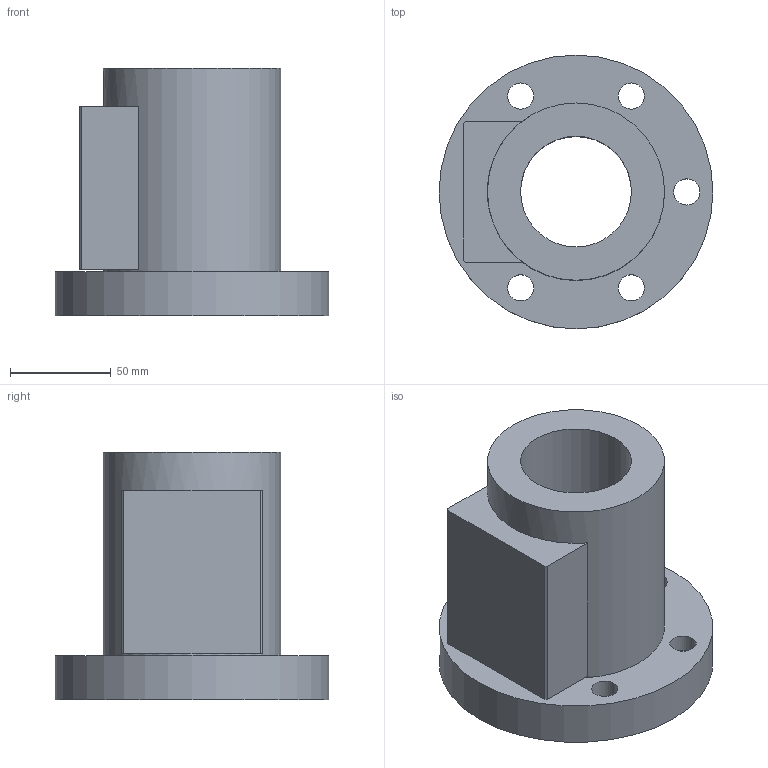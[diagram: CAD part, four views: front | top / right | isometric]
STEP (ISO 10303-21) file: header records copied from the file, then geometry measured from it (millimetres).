
FILE_DESCRIPTION(/* description */ (''),/* implementation_level */ '2;1');
FILE_NAME(/* name */ '55-12B2',/* time_stamp */ '2006-07-31T11:59:56+08:00',/* author */ (''),/* organization */ (''),/* preprocessor_version */ 'ST-DEVELOPER v9',/* originating_system */ 'UGS - NX 4.0',/* authorisation */ '');
FILE_SCHEMA (('CONFIG_CONTROL_DESIGN'));
Length unit declared in the file: millimetre
Products named in the file (1): 55-12B2
Bounding box: 136 x 136 x 123 mm (x, y, z)
Volume: 712874.3 mm3; surface area: 93653 mm2
Topology: 1 solids, 1 shells, 28 faces, 61 edges, 42 vertices
Faces by surface type: plane 15, cylinder 13
Full cylindrical faces by diameter (mm): 13 x5, 20 x5, 55 x1, 88 x1, 136 x1
Entity records: 794 total; most frequent: DIRECTION 130, CARTESIAN_POINT 111, ORIENTED_EDGE 88, EDGE_LOOP 60, AXIS2_PLACEMENT_3D 57, FACE_BOUND 45, EDGE_CURVE 44, VERTEX_POINT 38
